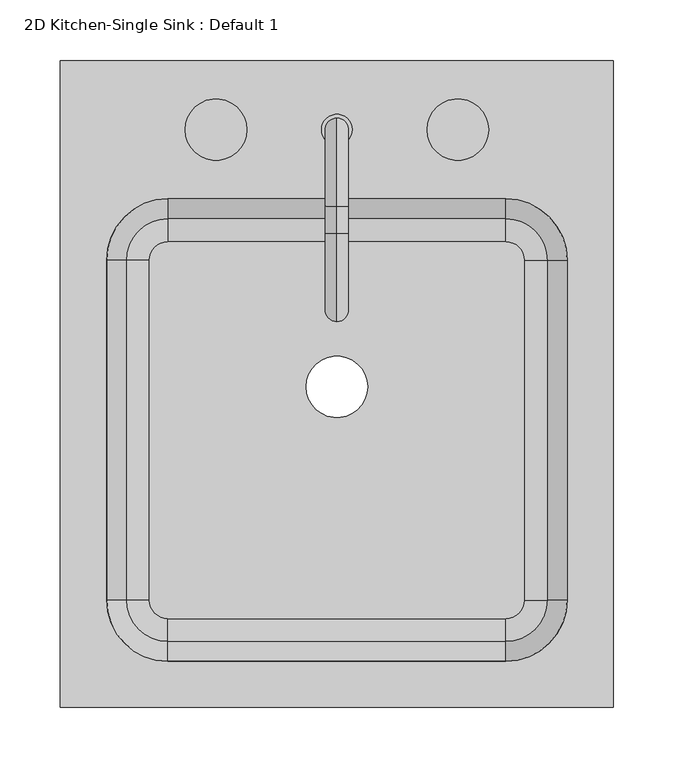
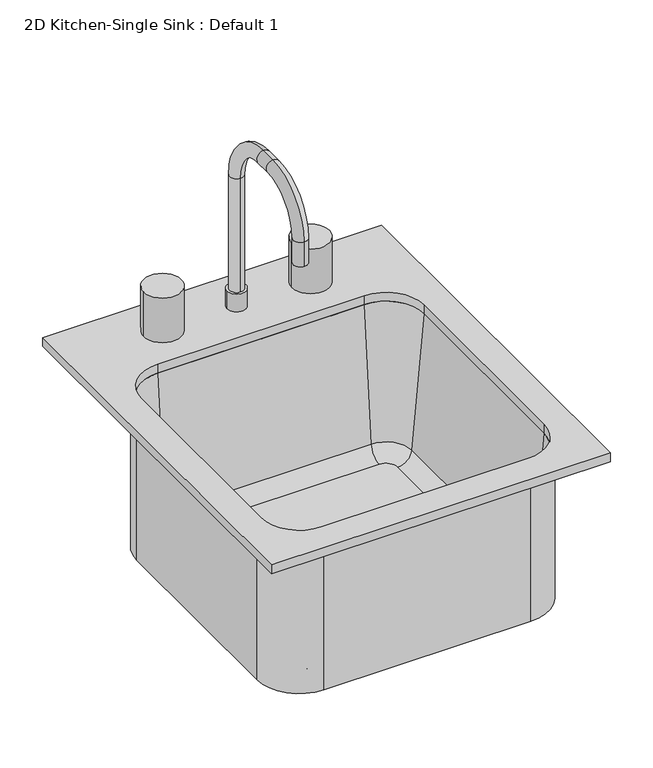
"""IFC4 building model written with IfcOpenShell, lengths in millimetres: flow terminal geometry, 2D Kitchen-Single Sink : Default 1."""

from ifc_helpers import new_model, si_unit, point, frame, frame_2d, origin, place, context, project, spatial, polyline, circle_curve, ellipse_curve, trimmed, segment, composite_curve, outline, extrude, source, transform, mapped, element, save
from ifc_brep_helpers import plane_surface, cylinder_surface, revolved_surface, advanced_brep


def flow_terminal_2d_kitchen_single_sink_default_1_1ce31d3a(model_context):
    return source(origin(), model_context, "Body", "SolidModel", [
        advanced_brep(
        [(212.5392406, 104.7454011, 698.5), (155.3892406, 161.8954011, 698.5), (155.3892406, 161.8954011, 914.4), (212.5392406, 104.7454011, 914.4), (212.5392406, -176.2545989, 698.5), (155.3892406, -233.4045989, 698.5), (-124.0107594, -233.4045989, 698.5), (-181.1607594, -176.2545989, 698.5), (-181.1607594, 104.7454011, 698.5), (-124.0107594, 161.8954011, 698.5), (-9.7107594, 0.0, 698.5), (41.0892406, 0.0, 698.5), (170.6776588, 104.7454011, 708.025), (155.3892406, 120.0338193, 708.025), (-124.0107594, 120.0338193, 708.025), (-139.2991776, 104.7454011, 708.025), (-139.2991776, -176.2545989, 708.025), (-124.0107594, -191.5430171, 708.025), (155.3892406, -191.5430171, 708.025), (170.6776588, -176.2545989, 708.025), (-9.7107594, 0.0, 708.025), (41.0892406, 0.0, 708.025), (189.6551678, 104.7454011, 725.4146831), (155.3892406, 139.0113283, 725.4146831), (206.1892406, 104.7454011, 914.4), (155.3892406, 155.5454011, 914.4), (212.5392406, -176.2545989, 914.4), (189.6551678, -176.2545989, 725.4146831), (206.1892406, -176.2545989, 914.4), (155.3892406, -233.4045989, 914.4), (155.3892406, -210.5205261, 725.4146831), (155.3892406, -227.0545989, 914.4), (-124.0107594, -233.4045989, 914.4), (-124.0107594, -210.5205261, 725.4146831), (-124.0107594, -227.0545989, 914.4), (-181.1607594, -176.2545989, 914.4), (-158.2766866, -176.2545989, 725.4146831), (-174.8107594, -176.2545989, 914.4), (-181.1607594, 104.7454011, 914.4), (-158.2766866, 104.7454011, 725.4146831), (-174.8107594, 104.7454011, 914.4), (-124.0107594, 161.8954011, 914.4), (-124.0107594, 139.0113283, 725.4146831), (-124.0107594, 155.5454011, 914.4)],
        [
            (0, 1, circle_curve(frame((155.3892406, 104.7454011, 698.5), z_axis=(0.0, 0.0, 1.0), x_axis=(0.0, 1.0, 0.0)), 57.15)),
            (1, 2),
            (2, 3, circle_curve(frame((155.3892406, 104.7454011, 914.4), z_axis=(0.0, 0.0, -1.0), x_axis=(0.0, 1.0, 0.0)), 57.15)),
            (3, 0),
            (0, 4),
            (4, 5, circle_curve(frame((155.3892406, -176.2545989, 698.5), z_axis=(0.0, 0.0, -1.0), x_axis=(1.0, 0.0, 0.0)), 57.15)),
            (5, 6),
            (6, 7, circle_curve(frame((-124.0107594, -176.2545989, 698.5), z_axis=(0.0, 0.0, -1.0), x_axis=(0.0, -1.0, 0.0)), 57.15)),
            (7, 8),
            (8, 9, circle_curve(frame((-124.0107594, 104.7454011, 698.5), z_axis=(0.0, 0.0, -1.0), x_axis=(-1.0, 0.0, 0.0)), 57.15)),
            (9, 1),
            (10, 11, circle_curve(frame((15.6892406, 0.0, 698.5), z_axis=(0.0, 0.0, 1.0), x_axis=(1.0, 0.0, 0.0)), 25.4)),
            (11, 10, circle_curve(frame((15.6892406, 0.0, 698.5), z_axis=(0.0, 0.0, 1.0), x_axis=(1.0, 0.0, 0.0)), 25.4)),
            (12, 13, circle_curve(frame((155.3892406, 104.7454011, 708.025), z_axis=(0.0, 0.0, 1.0), x_axis=(0.0, 1.0, 0.0)), 15.2884182)),
            (13, 14),
            (14, 15, circle_curve(frame((-124.0107594, 104.7454011, 708.025), z_axis=(0.0, 0.0, 1.0), x_axis=(-1.0, 0.0, 0.0)), 15.2884182)),
            (15, 16),
            (16, 17, circle_curve(frame((-124.0107594, -176.2545989, 708.025), z_axis=(0.0, 0.0, 1.0), x_axis=(0.0, -1.0, 0.0)), 15.2884182)),
            (17, 18),
            (18, 19, circle_curve(frame((155.3892406, -176.2545989, 708.025), z_axis=(0.0, 0.0, 1.0), x_axis=(1.0, 0.0, 0.0)), 15.2884182)),
            (19, 12),
            (20, 21, circle_curve(frame((15.6892406, 0.0, 708.025), z_axis=(0.0, 0.0, -1.0), x_axis=(1.0, 0.0, 0.0)), 25.4)),
            (21, 20, circle_curve(frame((15.6892406, 0.0, 708.025), z_axis=(0.0, 0.0, -1.0), x_axis=(1.0, 0.0, 0.0)), 25.4)),
            (12, 22, circle_curve(frame((170.6776588, 104.7454011, 727.075), z_axis=(0.0, -1.0, 0.0), x_axis=(1.0, 0.0, 0.0)), 19.05)),
            (22, 23, circle_curve(frame((155.3892406, 104.7454011, 725.4146831), z_axis=(0.0, 0.0, 1.0), x_axis=(0.0, 1.0, 0.0)), 34.2659272)),
            (23, 13, circle_curve(frame((155.3892406, 120.0338193, 727.075), z_axis=(-1.0, 0.0, 0.0), x_axis=(0.0, 1.0, 0.0)), 19.05)),
            (22, 24),
            (24, 25, circle_curve(frame((155.3892406, 104.7454011, 914.4), z_axis=(0.0, 0.0, 1.0), x_axis=(0.0, 1.0, 0.0)), 50.8)),
            (25, 23),
            (2, 25),
            (24, 3),
            (3, 26),
            (26, 4),
            (19, 27, circle_curve(frame((170.6776588, -176.2545989, 727.075), z_axis=(0.0, -1.0, 0.0), x_axis=(1.0, 0.0, 0.0)), 19.05)),
            (27, 22),
            (27, 28),
            (28, 24),
            (28, 26),
            (26, 29, circle_curve(frame((155.3892406, -176.2545989, 914.4), z_axis=(0.0, 0.0, -1.0), x_axis=(1.0, 0.0, 0.0)), 57.15)),
            (29, 5),
            (18, 30, circle_curve(frame((155.3892406, -191.5430171, 727.075), z_axis=(-1.0, 0.0, 0.0), x_axis=(0.0, -1.0, 0.0)), 19.05)),
            (30, 27, circle_curve(frame((155.3892406, -176.2545989, 725.4146831), z_axis=(0.0, 0.0, 1.0), x_axis=(1.0, 0.0, 0.0)), 34.2659272)),
            (30, 31),
            (31, 28, circle_curve(frame((155.3892406, -176.2545989, 914.4), z_axis=(0.0, 0.0, 1.0), x_axis=(1.0, 0.0, 0.0)), 50.8)),
            (31, 29),
            (29, 32),
            (32, 6),
            (17, 33, circle_curve(frame((-124.0107594, -191.5430171, 727.075), z_axis=(-1.0, 0.0, 0.0), x_axis=(0.0, -1.0, 0.0)), 19.05)),
            (33, 30),
            (33, 34),
            (34, 31),
            (34, 32),
            (32, 35, circle_curve(frame((-124.0107594, -176.2545989, 914.4), z_axis=(0.0, 0.0, -1.0), x_axis=(0.0, -1.0, 0.0)), 57.15)),
            (35, 7),
            (16, 36, circle_curve(frame((-139.2991776, -176.2545989, 727.075), z_axis=(0.0, 1.0, 0.0), x_axis=(-1.0, 0.0, 0.0)), 19.05)),
            (36, 33, circle_curve(frame((-124.0107594, -176.2545989, 725.4146831), z_axis=(0.0, 0.0, 1.0), x_axis=(0.0, -1.0, 0.0)), 34.2659272)),
            (36, 37),
            (37, 34, circle_curve(frame((-124.0107594, -176.2545989, 914.4), z_axis=(0.0, 0.0, 1.0), x_axis=(0.0, -1.0, 0.0)), 50.8)),
            (37, 35),
            (35, 38),
            (38, 8),
            (15, 39, circle_curve(frame((-139.2991776, 104.7454011, 727.075), z_axis=(0.0, 1.0, 0.0), x_axis=(-1.0, 0.0, 0.0)), 19.05)),
            (39, 36),
            (39, 40),
            (40, 37),
            (40, 38),
            (38, 41, circle_curve(frame((-124.0107594, 104.7454011, 914.4), z_axis=(0.0, 0.0, -1.0), x_axis=(-1.0, 0.0, 0.0)), 57.15)),
            (41, 9),
            (14, 42, circle_curve(frame((-124.0107594, 120.0338193, 727.075), z_axis=(1.0, 0.0, 0.0), x_axis=(0.0, 1.0, 0.0)), 19.05)),
            (42, 39, circle_curve(frame((-124.0107594, 104.7454011, 725.4146831), z_axis=(0.0, 0.0, 1.0), x_axis=(-1.0, 0.0, 0.0)), 34.2659272)),
            (42, 43),
            (43, 40, circle_curve(frame((-124.0107594, 104.7454011, 914.4), z_axis=(0.0, 0.0, 1.0), x_axis=(-1.0, 0.0, 0.0)), 50.8)),
            (43, 41),
            (41, 2),
            (23, 42),
            (25, 43),
            (20, 10),
            (11, 21),
        ],
        [
            cylinder_surface(frame((155.3892406, 104.7454011, 0.0), z_axis=(0.0, 0.0, -1.0), x_axis=(0.0, 1.0, 0.0)), 57.15),
            plane_surface(frame((155.3892406, 104.7454011, 698.5), z_axis=(0.0, 0.0, -1.0), x_axis=(0.0, 1.0, 0.0))),
            plane_surface(frame((155.3892406, 104.7454011, 708.025), z_axis=(0.0, 0.0, 1.0), x_axis=(0.0, 1.0, 0.0))),
            revolved_surface(trimmed(ellipse_curve(frame((155.3892406, 120.0338193, 727.075), z_axis=(1.0, 0.0, 0.0), x_axis=(0.0, 1.0, 0.0)), 19.05, 19.05), [point((155.3892406, 120.0338193, 708.025))], [point((155.3892406, 139.0113283, 725.4146831))], True, "CARTESIAN"), (155.3892406, 104.7454011, 0.0), (0.0, 0.0, -1.0)),
            revolved_surface(polyline([(155.3892406, 139.0113283, 725.4146831), (155.3892406, 155.5454011, 914.4)]), (155.3892406, 104.7454011, 0.0), (0.0, 0.0, -1.0)),
            plane_surface(frame((155.3892406, 104.7454011, 914.4), z_axis=(0.0, 0.0, 1.0), x_axis=(0.0, 1.0, 0.0))),
            plane_surface(frame((212.5392406, 104.7454011, 914.4), z_axis=(1.0, 0.0, 0.0), x_axis=(0.0, -1.0, 0.0))),
            revolved_surface(polyline([(189.7276588, -176.25459890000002, 727.075), (189.7276588, 104.7454011, 727.075)]), (170.6776588, 104.7454011, 727.075), (0.0, -1.0, 0.0)),
            plane_surface(frame((189.6551678, 104.7454011, 725.4146831), z_axis=(-0.9961946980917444, 0.0, 0.08715574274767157), x_axis=(0.0, -1.0, 0.0))),
            plane_surface(frame((206.1892406, 104.7454011, 914.4), z_axis=(0.0, 0.0, 1.0), x_axis=(0.0, -1.0, 0.0))),
            cylinder_surface(frame((155.3892406, -176.2545989, 0.0), z_axis=(0.0, 0.0, -1.0), x_axis=(1.0, 0.0, 0.0)), 57.15),
            revolved_surface(trimmed(ellipse_curve(frame((170.6776588, -176.2545989, 727.075), z_axis=(0.0, -1.0, 0.0), x_axis=(1.0, 0.0, 0.0)), 19.05, 19.05), [point((170.6776588, -176.2545989, 708.025))], [point((189.6551678, -176.2545989, 725.4146831))], True, "CARTESIAN"), (155.3892406, -176.2545989, 0.0), (0.0, 0.0, -1.0)),
            revolved_surface(polyline([(189.6551678, -176.2545989, 725.4146831), (206.1892406, -176.2545989, 914.4)]), (155.3892406, -176.2545989, 0.0), (0.0, 0.0, -1.0)),
            plane_surface(frame((155.3892406, -176.2545989, 914.4), z_axis=(0.0, 0.0, 1.0), x_axis=(1.0, 0.0, 0.0))),
            plane_surface(frame((155.3892406, -233.4045989, 914.4), z_axis=(0.0, -1.0, 0.0), x_axis=(-1.0, 0.0, 0.0))),
            revolved_surface(polyline([(-124.01075939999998, -210.5930171, 727.075), (155.3892406, -210.5930171, 727.075)]), (155.3892406, -191.5430171, 727.075), (-1.0, 0.0, 0.0)),
            plane_surface(frame((155.3892406, -210.5205261, 725.4146831), z_axis=(0.0, 0.9961946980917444, 0.08715574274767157), x_axis=(-1.0, 0.0, 0.0))),
            plane_surface(frame((155.3892406, -227.0545989, 914.4), z_axis=(0.0, 0.0, 1.0), x_axis=(-1.0, 0.0, 0.0))),
            cylinder_surface(frame((-124.0107594, -176.2545989, 0.0), z_axis=(0.0, 0.0, -1.0), x_axis=(0.0, -1.0, 0.0)), 57.15),
            revolved_surface(trimmed(ellipse_curve(frame((-124.0107594, -191.5430171, 727.075), z_axis=(-1.0, 0.0, 0.0), x_axis=(0.0, -1.0, 0.0)), 19.05, 19.05), [point((-124.0107594, -191.5430171, 708.025))], [point((-124.0107594, -210.5205261, 725.4146831))], True, "CARTESIAN"), (-124.0107594, -176.2545989, 0.0), (0.0, 0.0, -1.0)),
            revolved_surface(polyline([(-124.0107594, -210.5205261, 725.4146831), (-124.0107594, -227.0545989, 914.4)]), (-124.0107594, -176.2545989, 0.0), (0.0, 0.0, -1.0)),
            plane_surface(frame((-124.0107594, -176.2545989, 914.4), z_axis=(0.0, 0.0, 1.0), x_axis=(0.0, -1.0, 0.0))),
            plane_surface(frame((-181.1607594, -176.2545989, 914.4), z_axis=(-1.0, 0.0, 0.0), x_axis=(0.0, 1.0, 0.0))),
            revolved_surface(polyline([(-158.34917760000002, 104.74540110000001, 727.075), (-158.34917760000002, -176.2545989, 727.075)]), (-139.2991776, -176.2545989, 727.075), (0.0, 1.0, 0.0)),
            plane_surface(frame((-158.2766866, -176.2545989, 725.4146831), z_axis=(0.9961946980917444, 0.0, 0.08715574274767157), x_axis=(0.0, 1.0, 0.0))),
            plane_surface(frame((-174.8107594, -176.2545989, 914.4), z_axis=(0.0, 0.0, 1.0), x_axis=(0.0, 1.0, 0.0))),
            cylinder_surface(frame((-124.0107594, 104.7454011, 0.0), z_axis=(0.0, 0.0, -1.0), x_axis=(-1.0, 0.0, 0.0)), 57.15),
            revolved_surface(trimmed(ellipse_curve(frame((-139.2991776, 104.7454011, 727.075), z_axis=(0.0, 1.0, 0.0), x_axis=(-1.0, 0.0, 0.0)), 19.05, 19.05), [point((-139.2991776, 104.7454011, 708.025))], [point((-158.2766866, 104.7454011, 725.4146831))], True, "CARTESIAN"), (-124.0107594, 104.7454011, 0.0), (0.0, 0.0, -1.0)),
            revolved_surface(polyline([(-158.2766866, 104.7454011, 725.4146831), (-174.8107594, 104.7454011, 914.4)]), (-124.0107594, 104.7454011, 0.0), (0.0, 0.0, -1.0)),
            plane_surface(frame((-124.0107594, 104.7454011, 914.4), z_axis=(0.0, 0.0, 1.0), x_axis=(-1.0, 0.0, 0.0))),
            plane_surface(frame((-124.0107594, 161.8954011, 914.4), z_axis=(0.0, 1.0, 0.0), x_axis=(1.0, 0.0, 0.0))),
            revolved_surface(polyline([(155.3892406, 139.08381930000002, 727.075), (-124.0107594, 139.08381930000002, 727.075)]), (-124.0107594, 120.0338193, 727.075), (1.0, 0.0, 0.0)),
            plane_surface(frame((-124.0107594, 139.0113283, 725.4146831), z_axis=(0.0, -0.9961946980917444, 0.08715574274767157), x_axis=(1.0, 0.0, 0.0))),
            plane_surface(frame((-124.0107594, 155.5454011, 914.4), z_axis=(0.0, 0.0, 1.0), x_axis=(1.0, 0.0, 0.0))),
            revolved_surface(polyline([(41.0892406, 0.0, 698.5), (41.0892406, 0.0, 708.025)]), (15.6892406, 0.0, 0.0), (0.0, 0.0, -1.0)),
        ],
        [
            (0, [[1, 2, 3, 4]]),
            (1, [[-1, 5, 6, 7, 8, 9, 10, 11], [12, 13]]),
            (2, [[14, 15, 16, 17, 18, 19, 20, 21], [22, 23]]),
            (3, [[-14, 24, 25, 26]]),
            (4, [[-25, 27, 28, 29]]),
            (5, [[-3, 30, -28, 31]]),
            (6, [[-4, 32, 33, -5]]),
            (7, [[-24, -21, 34, 35]]),
            (8, [[-27, -35, 36, 37]]),
            (9, [[-31, -37, 38, -32]]),
            (10, [[-33, 39, 40, -6]]),
            (11, [[-34, -20, 41, 42]]),
            (12, [[-36, -42, 43, 44]]),
            (13, [[-38, -44, 45, -39]]),
            (14, [[-40, 46, 47, -7]]),
            (15, [[-41, -19, 48, 49]]),
            (16, [[-43, -49, 50, 51]]),
            (17, [[-45, -51, 52, -46]]),
            (18, [[-47, 53, 54, -8]]),
            (19, [[-48, -18, 55, 56]]),
            (20, [[-50, -56, 57, 58]]),
            (21, [[-52, -58, 59, -53]]),
            (22, [[-54, 60, 61, -9]]),
            (23, [[-55, -17, 62, 63]]),
            (24, [[-57, -63, 64, 65]]),
            (25, [[-59, -65, 66, -60]]),
            (26, [[-61, 67, 68, -10]]),
            (27, [[-62, -16, 69, 70]]),
            (28, [[-64, -70, 71, 72]]),
            (29, [[-66, -72, 73, -67]]),
            (30, [[-2, -11, -68, 74]]),
            (31, [[-26, 75, -69, -15]]),
            (32, [[-29, 76, -71, -75]]),
            (33, [[-30, -74, -73, -76]]),
            (34, [[-22, 77, -13, 78]]),
            (34, [[-23, -78, -12, -77]]),
        ],
    ),
        advanced_brep(
        [(2.9892406, 212.6954011, 952.5), (28.3892406, 212.6954011, 952.5), (15.6892406, 222.2204011, 952.5), (15.6892406, 203.1704011, 952.5), (2.9892406, 212.6954011, 927.1), (28.3892406, 212.6954011, 927.1), (15.6892406, 222.2204011, 1114.425), (15.6892406, 203.1704011, 1114.425), (15.6892406, 149.1954011, 1187.45), (15.6892406, 149.1954011, 1168.4), (15.6892406, 126.9704011, 1187.45), (15.6892406, 126.9704011, 1168.4), (15.6892406, 53.9454011, 1114.425), (15.6892406, 72.9954011, 1114.425), (15.6892406, 53.9454011, 1079.5), (15.6892406, 72.9954011, 1079.5)],
        [
            (0, 1, circle_curve(frame((15.6892406, 212.6954011, 952.5), z_axis=(0.0, 0.0, 1.0), x_axis=(1.0, 0.0, 0.0)), 12.7)),
            (1, 0, circle_curve(frame((15.6892406, 212.6954011, 952.5), z_axis=(0.0, 0.0, 1.0), x_axis=(1.0, 0.0, 0.0)), 12.7)),
            (2, 3, circle_curve(frame((15.6892406, 212.6954011, 952.5), z_axis=(0.0, 0.0, -1.0), x_axis=(0.0, -1.0, 0.0)), 9.525)),
            (3, 2, circle_curve(frame((15.6892406, 212.6954011, 952.5), z_axis=(0.0, 0.0, -1.0), x_axis=(0.0, -1.0, 0.0)), 9.525)),
            (4, 5, circle_curve(frame((15.6892406, 212.6954011, 927.1), z_axis=(0.0, 0.0, -1.0), x_axis=(1.0, 0.0, 0.0)), 12.7)),
            (5, 4, circle_curve(frame((15.6892406, 212.6954011, 927.1), z_axis=(0.0, 0.0, -1.0), x_axis=(1.0, 0.0, 0.0)), 12.7)),
            (0, 4),
            (5, 1),
            (6, 7, circle_curve(frame((15.6892406, 212.6954011, 1114.425), z_axis=(0.0, 0.0, -1.0), x_axis=(0.0, -1.0, 0.0)), 9.525)),
            (7, 3),
            (2, 6),
            (7, 6, circle_curve(frame((15.6892406, 212.6954011, 1114.425), z_axis=(0.0, 0.0, -1.0), x_axis=(0.0, -1.0, 0.0)), 9.525)),
            (6, 8, circle_curve(frame((15.6892406, 149.1954011, 1114.425), z_axis=(1.0, 0.0, 0.0), x_axis=(0.0, 1.0, 0.0)), 73.025)),
            (8, 9, circle_curve(frame((15.6892406, 149.1954011, 1177.925), z_axis=(0.0, 1.0, 0.0), x_axis=(0.0, 0.0, -1.0)), 9.525)),
            (9, 7, circle_curve(frame((15.6892406, 149.1954011, 1114.425), z_axis=(-1.0, 0.0, 0.0), x_axis=(0.0, 1.0, 0.0)), 53.975)),
            (9, 8, circle_curve(frame((15.6892406, 149.1954011, 1177.925), z_axis=(0.0, 1.0, 0.0), x_axis=(0.0, 0.0, -1.0)), 9.525)),
            (8, 10),
            (10, 11, circle_curve(frame((15.6892406, 126.9704011, 1177.925), z_axis=(0.0, 1.0, 0.0), x_axis=(0.0, 0.0, -1.0)), 9.525)),
            (11, 9),
            (11, 10, circle_curve(frame((15.6892406, 126.9704011, 1177.925), z_axis=(0.0, 1.0, 0.0), x_axis=(0.0, 0.0, -1.0)), 9.525)),
            (10, 12, circle_curve(frame((15.6892406, 126.9704011, 1114.425), z_axis=(1.0, 0.0, 0.0), x_axis=(0.0, 0.0, 1.0)), 73.025)),
            (12, 13, circle_curve(frame((15.6892406, 63.4704011, 1114.425), z_axis=(0.0, 0.0, 1.0), x_axis=(0.0, 1.0, 0.0)), 9.525)),
            (13, 11, circle_curve(frame((15.6892406, 126.9704011, 1114.425), z_axis=(-1.0, 0.0, 0.0), x_axis=(0.0, 0.0, 1.0)), 53.975)),
            (13, 12, circle_curve(frame((15.6892406, 63.4704011, 1114.425), z_axis=(0.0, 0.0, 1.0), x_axis=(0.0, 1.0, 0.0)), 9.525)),
            (14, 15, circle_curve(frame((15.6892406, 63.4704011, 1079.5), z_axis=(0.0, 0.0, -1.0), x_axis=(0.0, 1.0, 0.0)), 9.525)),
            (15, 14, circle_curve(frame((15.6892406, 63.4704011, 1079.5), z_axis=(0.0, 0.0, -1.0), x_axis=(0.0, 1.0, 0.0)), 9.525)),
            (12, 14),
            (15, 13),
        ],
        [
            plane_surface(frame((28.3892406, 212.6954011, 952.5), z_axis=(0.0, 0.0, 1.0), x_axis=(0.0, 1.0, 0.0))),
            plane_surface(frame((28.3892406, 212.6954011, 927.1), z_axis=(0.0, 0.0, -1.0), x_axis=(0.0, -1.0, 0.0))),
            cylinder_surface(frame((15.6892406, 212.6954011, 927.1), z_axis=(0.0, 0.0, 1.0), x_axis=(1.0, 0.0, 0.0)), 12.7),
            cylinder_surface(frame((15.6892406, 212.6954011, 927.1), z_axis=(0.0, 0.0, -1.0), x_axis=(0.0, -1.0, 0.0)), 9.525),
            revolved_surface(trimmed(ellipse_curve(frame((15.6892406, 212.6954011, 1114.425), z_axis=(0.0, 0.0, -1.0), x_axis=(0.0, -1.0, 0.0)), 9.525, 9.525), [point((15.6892406, 222.2204011, 1114.425))], [point((15.6892406, 203.1704011, 1114.425))], True, "CARTESIAN"), (15.6892406, 149.1954011, 1114.425), (1.0, 0.0, 0.0)),
            revolved_surface(trimmed(ellipse_curve(frame((15.6892406, 212.6954011, 1114.425), z_axis=(0.0, 0.0, -1.0), x_axis=(0.0, -1.0, 0.0)), 9.525, 9.525), [point((15.6892406, 203.1704011, 1114.425))], [point((15.6892406, 222.2204011, 1114.425))], True, "CARTESIAN"), (15.6892406, 149.1954011, 1114.425), (1.0, 0.0, 0.0)),
            cylinder_surface(frame((15.6892406, 149.1954011, 1177.925), z_axis=(0.0, 1.0, 0.0), x_axis=(0.0, 0.0, -1.0)), 9.525),
            revolved_surface(trimmed(ellipse_curve(frame((15.6892406, 126.9704011, 1177.925), z_axis=(0.0, 1.0, 0.0), x_axis=(0.0, 0.0, -1.0)), 9.525, 9.525), [point((15.6892406, 126.9704011, 1187.45))], [point((15.6892406, 126.9704011, 1168.4))], True, "CARTESIAN"), (15.6892406, 126.9704011, 1114.425), (1.0, 0.0, 0.0)),
            revolved_surface(trimmed(ellipse_curve(frame((15.6892406, 126.9704011, 1177.925), z_axis=(0.0, 1.0, 0.0), x_axis=(0.0, 0.0, -1.0)), 9.525, 9.525), [point((15.6892406, 126.9704011, 1168.4))], [point((15.6892406, 126.9704011, 1187.45))], True, "CARTESIAN"), (15.6892406, 126.9704011, 1114.425), (1.0, 0.0, 0.0)),
            plane_surface(frame((15.6892406, 53.9454011, 1079.5), z_axis=(0.0, 0.0, -1.0), x_axis=(-1.0, 0.0, 0.0))),
            cylinder_surface(frame((15.6892406, 63.4704011, 1114.425), z_axis=(0.0, 0.0, 1.0), x_axis=(0.0, 1.0, 0.0)), 9.525),
        ],
        [
            (0, [[1, 2], [3, 4]]),
            (1, [[5, 6]]),
            (2, [[-1, 7, -6, 8]]),
            (2, [[-2, -8, -5, -7]]),
            (3, [[9, 10, -3, 11]]),
            (3, [[12, -11, -4, -10]]),
            (4, [[-9, 13, 14, 15]]),
            (5, [[-12, -15, 16, -13]]),
            (6, [[-14, 17, 18, 19]]),
            (6, [[-16, -19, 20, -17]]),
            (7, [[-18, 21, 22, 23]]),
            (8, [[-20, -23, 24, -21]]),
            (9, [[25, 26]]),
            (10, [[-22, 27, -26, 28]]),
            (10, [[-24, -28, -25, -27]]),
        ],
    ),
        extrude(outline(composite_curve([segment(trimmed(circle_curve(frame_2d((-84.3107594, 212.6954011)), 25.4), [point((-109.7107594, 212.6954011))], [point((-58.9107594, 212.6954011))], False, "CARTESIAN"), True, "CONTINUOUS"), segment(trimmed(circle_curve(frame_2d((-84.3107594, 212.6954011)), 25.4), [point((-58.9107594, 212.6954011))], [point((-109.7107594, 212.6954011))], False, "CARTESIAN"), True, "CONTINUOUS")], self_intersect=False)), frame((0.0, 0.0, 927.1), z_axis=(0.0, 0.0, 1.0), x_axis=(1.0, 0.0, 0.0)), (0.0, 0.0, 1.0), 63.5),
        extrude(outline(composite_curve([segment(trimmed(circle_curve(frame_2d((115.6892406, 212.6954011)), 25.4), [point((90.2892406, 212.6954011))], [point((141.0892406, 212.6954011))], False, "CARTESIAN"), True, "CONTINUOUS"), segment(trimmed(circle_curve(frame_2d((115.6892406, 212.6954011)), 25.4), [point((141.0892406, 212.6954011))], [point((90.2892406, 212.6954011))], False, "CARTESIAN"), True, "CONTINUOUS")], self_intersect=False)), frame((0.0, 0.0, 927.1), z_axis=(0.0, 0.0, 1.0), x_axis=(1.0, 0.0, 0.0)), (0.0, 0.0, 1.0), 63.5),
        extrude(outline(polyline([(244.2892406, 269.8454011), (244.2892406, -265.1545989), (-212.9107594, -265.1545989), (-212.9107594, 269.8454011), (244.2892406, 269.8454011)]), holes=[composite_curve([segment(polyline([(155.3892406, 155.5454011), (-124.0107594, 155.5454011)]), True, "CONTINUOUS"), segment(trimmed(circle_curve(frame_2d((-124.0107594, 104.7454011)), 50.8), [point((-124.0107594, 155.5454011))], [point((-174.8107594, 104.7454011))], True, "CARTESIAN"), True, "CONTINUOUS"), segment(polyline([(-174.8107594, 104.7454011), (-174.8107594, -176.2545989)]), True, "CONTINUOUS"), segment(trimmed(circle_curve(frame_2d((-124.0107594, -176.2545989)), 50.8), [point((-174.8107594, -176.2545989))], [point((-124.0107594, -227.0545989))], True, "CARTESIAN"), True, "CONTINUOUS"), segment(polyline([(-124.0107594, -227.0545989), (155.3892406, -227.0545989)]), True, "CONTINUOUS"), segment(trimmed(circle_curve(frame_2d((155.3892406, -176.2545989)), 50.8), [point((155.3892406, -227.0545989))], [point((206.1892406, -176.2545989))], True, "CARTESIAN"), True, "CONTINUOUS"), segment(polyline([(206.1892406, -176.2545989), (206.1892406, 104.7454011)]), True, "CONTINUOUS"), segment(trimmed(circle_curve(frame_2d((155.3892406, 104.7454011)), 50.8), [point((206.1892406, 104.7454011))], [point((155.3892406, 155.5454011))], True, "CARTESIAN"), True, "CONTINUOUS")], self_intersect=False)]), frame((0.0, 0.0, 914.4), z_axis=(0.0, 0.0, 1.0), x_axis=(1.0, 0.0, 0.0)), (0.0, 0.0, 1.0), 12.7),
    ])


if __name__ == "__main__":
    model = new_model("IFC4")
    model_context = context("Model", 3, world=origin())
    ifc_project = project(units=[si_unit("LENGTHUNIT", "METRE", prefix="MILLI")], contexts=[model_context])
    site = spatial("IfcSite", under=ifc_project)
    building = spatial("IfcBuilding", under=site)
    placement = place(None, origin())
    flow_terminal_2d_kitchen_single_sink_default_1_shape = flow_terminal_2d_kitchen_single_sink_default_1_1ce31d3a(model_context)
    element("IfcFlowTerminal", 1, ObjectType="2D Kitchen-Single Sink : Default 1", at=placement, inside=building, context=model_context, shape_type="MappedRepresentation", body=[
        mapped(flow_terminal_2d_kitchen_single_sink_default_1_shape, transform((0.0, 0.0, 0.0), x_axis=(1.0, 0.0, 0.0), y_axis=(0.0, 1.0, 0.0), z_axis=(0.0, 0.0, 1.0))),
    ])
    save(model, "model.ifc")
